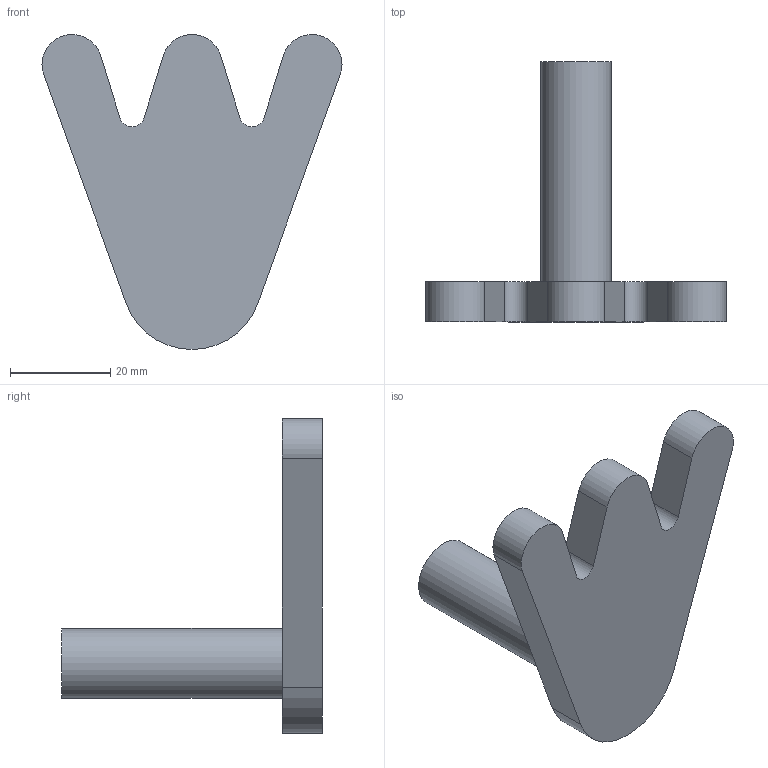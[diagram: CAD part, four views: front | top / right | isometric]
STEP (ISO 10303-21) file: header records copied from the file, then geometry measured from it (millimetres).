
FILE_DESCRIPTION(/* description */ (''),/* implementation_level */ '2;1');
FILE_NAME(/* name */ 'noga.stp',/* time_stamp */ '2025-06-06T22:19:22+02:00',/* author */ (''),/* organization */ (''),/* preprocessor_version */ 'ST-DEVELOPER v20',/* originating_system */ 'SIEMENS PLM Software NX2412.3001',/* authorisation */ '');
FILE_SCHEMA (('AUTOMOTIVE_DESIGN { 1 0 10303 214 3 1 1 1 }'));
Length unit declared in the file: millimetre
Products named in the file (1): czesci_ekran
Bounding box: 60 x 52 x 62.98 mm (x, y, z)
Volume: 24694.8 mm3; surface area: 8724.2 mm2
Topology: 2 solids, 2 shells, 17 faces, 39 edges, 26 vertices
Faces by surface type: plane 10, cylinder 7
Full cylindrical faces by diameter (mm): 14 x1
Entity records: 511 total; most frequent: DIRECTION 88, CARTESIAN_POINT 82, ORIENTED_EDGE 76, EDGE_CURVE 38, AXIS2_PLACEMENT_3D 32, VERTEX_POINT 26, LINE 24, VECTOR 24
